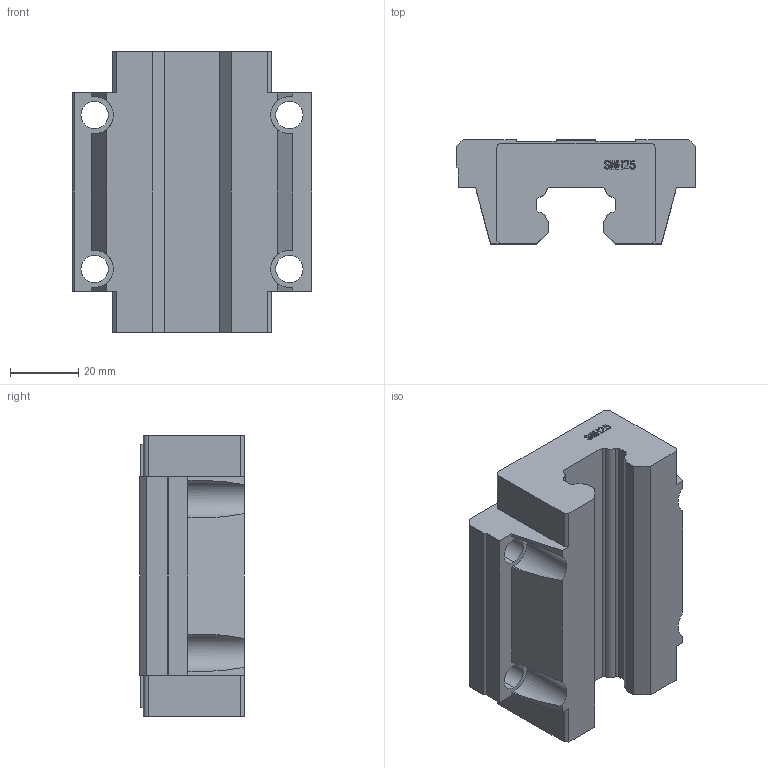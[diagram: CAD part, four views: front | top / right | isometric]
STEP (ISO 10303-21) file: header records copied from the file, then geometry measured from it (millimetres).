
FILE_DESCRIPTION (( 'STEP AP203' ), '1' );
FILE_NAME ('SMH25A.stp', '2019-09-23T00:28:34', ( 'pgos' ), ( '' ), 'SwSTEP 2.0', 'SolidWorks 2014', '' );
FILE_SCHEMA (( 'CONFIG_CONTROL_DESIGN' ));
Length unit declared in the file: millimetre
Products named in the file (1): SMH25A
Bounding box: 70 x 30.5 x 82 mm (x, y, z)
Volume: 109666.1 mm3; surface area: 22316 mm2
Topology: 1 solids, 1 shells, 156 faces, 447 edges, 298 vertices
Faces by surface type: plane 117, cylinder 20, bspline 19
Entity records: 6698 total; most frequent: CARTESIAN_POINT 2633, ORIENTED_EDGE 894, DIRECTION 717, EDGE_CURVE 447, VECTOR 361, LINE 361, VERTEX_POINT 298, AXIS2_PLACEMENT_3D 178
